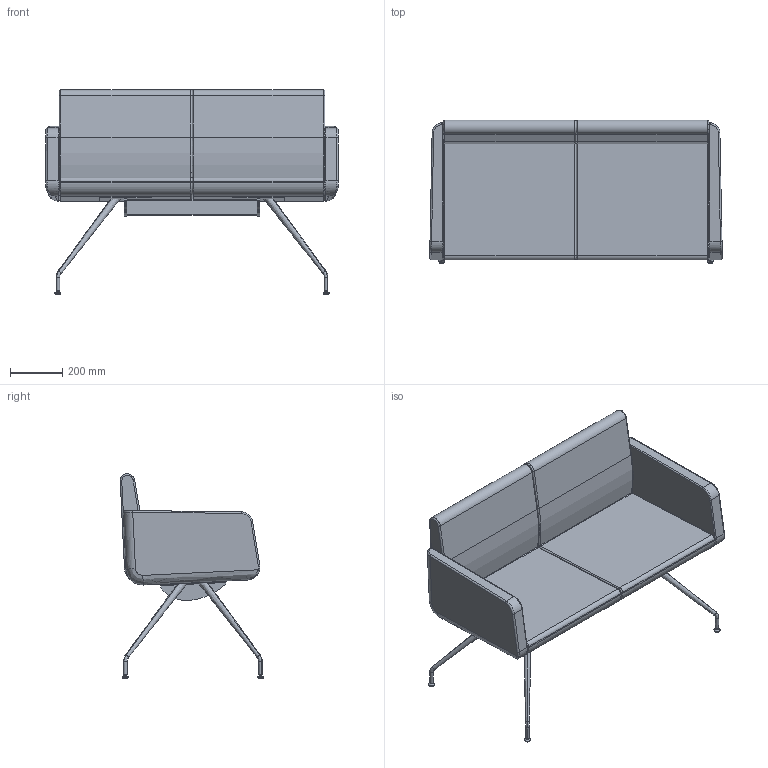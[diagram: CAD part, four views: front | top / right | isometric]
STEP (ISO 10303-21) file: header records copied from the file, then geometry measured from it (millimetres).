
FILE_DESCRIPTION(/* description */ (''),/* implementation_level */ '2;1');
FILE_NAME(/* name */ 'DELTA2~1',/* time_stamp */ '2016-06-16T16:11:50+02:00',/* author */ (''),/* organization */ (''),/* preprocessor_version */ 'ST-DEVELOPER v15',/* originating_system */ '',/* authorisation */ '');
FILE_SCHEMA (('CONFIG_CONTROL_DESIGN'));
Length unit declared in the file: millimetre
Products named in the file (1): Document
Bounding box: 1123.67 x 550.98 x 785.18 mm (x, y, z)
Volume: 73868399.1 mm3; surface area: 3251543.3 mm2
Topology: 8 solids, 17 shells, 240 faces, 543 edges, 328 vertices
Faces by surface type: bspline 212, plane 28
Entity records: 7997 total; most frequent: CARTESIAN_POINT 5096, ORIENTED_EDGE 1036, EDGE_CURVE 538, VERTEX_POINT 322, EDGE_LOOP 244, ADVANCED_FACE 240, FACE_OUTER_BOUND 240, B_SPLINE_CURVE_WITH_KNOTS 50
